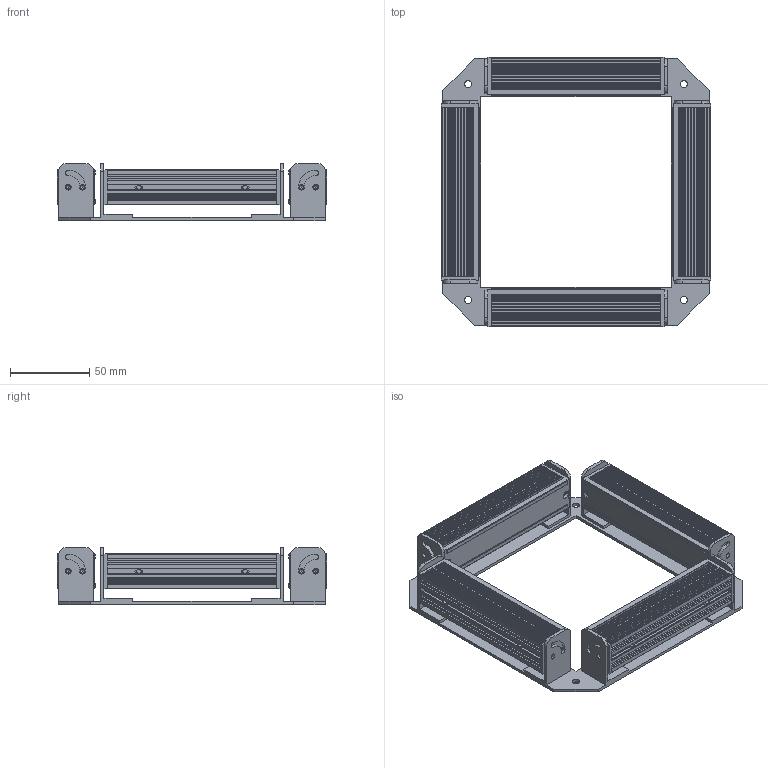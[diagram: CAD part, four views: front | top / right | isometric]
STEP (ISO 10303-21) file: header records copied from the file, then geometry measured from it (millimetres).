
FILE_DESCRIPTION((''),'2;1');
FILE_NAME('MSL-102-102_ASM','2020-03-26T',('ASUS'),(''),'PRO/ENGINEER BY PARAMETRIC TECHNOLOGY CORPORATION, 2008380','PRO/ENGINEER BY PARAMETRIC TECHNOLOGY CORPORATION, 2008380','');
FILE_SCHEMA(('CONFIG_CONTROL_DESIGN'));
Length unit declared in the file: millimetre
Products named in the file (3): PRT0002; DSL-111-22; MSL-102-102_ASM
Assembly tree (5 placements, depth 2):
  MSL-102-102_ASM
    PRT0002
    DSL-111-22  x4
Bounding box: 170.04 x 170.04 x 36 mm (x, y, z)
Volume: 247914.3 mm3; surface area: 124041.3 mm2
Topology: 5 solids, 21 shells, 1242 faces, 3328 edges, 2200 vertices
Faces by surface type: plane 746, cylinder 416, cone 80
Entity records: 13356 total; most frequent: CARTESIAN_POINT 2454, DIRECTION 2271, ORIENTED_EDGE 2226, EDGE_CURVE 1121, VECTOR 765, LINE 765, AXIS2_PLACEMENT_3D 753, VERTEX_POINT 748
